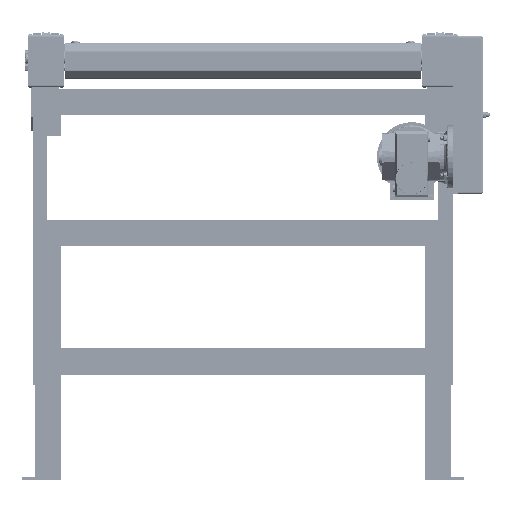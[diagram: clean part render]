
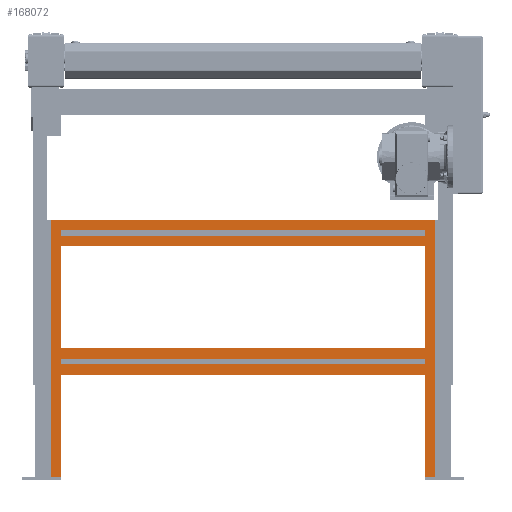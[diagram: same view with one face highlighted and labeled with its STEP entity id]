
A CAD part, front view. The second image highlights one B-rep face of the part: STEP entity #168072.
In plain terms, the highlighted planar face has unit normal (0, -1, 0).
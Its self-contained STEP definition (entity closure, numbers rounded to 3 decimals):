
#5997=FACE_BOUND('',#31920,.T.);
#5998=FACE_BOUND('',#31921,.T.);
#5999=FACE_BOUND('',#31922,.T.);
#21979=FACE_OUTER_BOUND('',#31919,.T.);
#31919=EDGE_LOOP('',(#113441,#113442,#113443,#113444,#113445,#113446,#113447,
#113448));
#31920=EDGE_LOOP('',(#113449,#113450,#113451,#113452));
#31921=EDGE_LOOP('',(#113453,#113454,#113455,#113456));
#31922=EDGE_LOOP('',(#113457,#113458,#113459,#113460));
#47672=LINE('',#255360,#58931);
#47867=LINE('',#255763,#59126);
#47869=LINE('',#255769,#59128);
#47901=LINE('',#255836,#59160);
#47909=LINE('',#255853,#59168);
#47931=LINE('',#255897,#59190);
#48025=LINE('',#256080,#59284);
#48208=LINE('',#256440,#59467);
#48212=LINE('',#256447,#59471);
#48224=LINE('',#256471,#59483);
#48227=LINE('',#256477,#59486);
#48251=LINE('',#256524,#59510);
#48254=LINE('',#256530,#59513);
#48261=LINE('',#256540,#59520);
#48295=LINE('',#256608,#59554);
#48307=LINE('',#256632,#59566);
#48309=LINE('',#256635,#59568);
#48329=LINE('',#256673,#59588);
#48360=LINE('',#256731,#59619);
#48361=LINE('',#256732,#59620);
#58931=VECTOR('',#202830,19.95);
#59126=VECTOR('',#203139,194.5);
#59128=VECTOR('',#203143,194.5);
#59160=VECTOR('',#203189,10.1);
#59168=VECTOR('',#203199,10.1);
#59190=VECTOR('',#203233,489.);
#59284=VECTOR('',#203391,19.95);
#59467=VECTOR('',#203748,691.);
#59471=VECTOR('',#203754,691.);
#59483=VECTOR('',#203778,691.);
#59486=VECTOR('',#203783,691.);
#59510=VECTOR('',#203829,194.5);
#59513=VECTOR('',#203838,194.5);
#59520=VECTOR('',#203847,10.1);
#59554=VECTOR('',#203909,691.);
#59566=VECTOR('',#203933,691.);
#59568=VECTOR('',#203937,691.);
#59588=VECTOR('',#203981,10.1);
#59619=VECTOR('',#204032,730.9);
#59620=VECTOR('',#204033,489.);
#69533=VERTEX_POINT('',#255357);
#69534=VERTEX_POINT('',#255359);
#69674=VERTEX_POINT('',#255740);
#69685=VERTEX_POINT('',#255761);
#69687=VERTEX_POINT('',#255766);
#69688=VERTEX_POINT('',#255768);
#69715=VERTEX_POINT('',#255833);
#69716=VERTEX_POINT('',#255835);
#69722=VERTEX_POINT('',#255849);
#69724=VERTEX_POINT('',#255852);
#69738=VERTEX_POINT('',#255893);
#69740=VERTEX_POINT('',#255896);
#69886=VERTEX_POINT('',#256437);
#69889=VERTEX_POINT('',#256444);
#69895=VERTEX_POINT('',#256469);
#69897=VERTEX_POINT('',#256474);
#69909=VERTEX_POINT('',#256522);
#69931=VERTEX_POINT('',#256605);
#69937=VERTEX_POINT('',#256630);
#69960=VERTEX_POINT('',#256730);
#86486=EDGE_CURVE('',#69533,#69534,#47672,.T.);
#86691=EDGE_CURVE('',#69685,#69674,#47867,.T.);
#86693=EDGE_CURVE('',#69687,#69688,#47869,.T.);
#86725=EDGE_CURVE('',#69715,#69716,#47901,.T.);
#86733=EDGE_CURVE('',#69722,#69724,#47909,.T.);
#86755=EDGE_CURVE('',#69740,#69738,#47931,.T.);
#86849=EDGE_CURVE('',#69685,#69740,#48025,.T.);
#87034=EDGE_CURVE('',#69886,#69687,#48208,.T.);
#87038=EDGE_CURVE('',#69716,#69889,#48212,.T.);
#87050=EDGE_CURVE('',#69715,#69895,#48224,.T.);
#87053=EDGE_CURVE('',#69674,#69897,#48227,.T.);
#87077=EDGE_CURVE('',#69886,#69909,#48251,.T.);
#87080=EDGE_CURVE('',#69533,#69897,#48254,.T.);
#87087=EDGE_CURVE('',#69895,#69889,#48261,.T.);
#87121=EDGE_CURVE('',#69724,#69931,#48295,.T.);
#87133=EDGE_CURVE('',#69722,#69937,#48307,.T.);
#87135=EDGE_CURVE('',#69688,#69909,#48309,.T.);
#87155=EDGE_CURVE('',#69937,#69931,#48329,.T.);
#87186=EDGE_CURVE('',#69960,#69738,#48360,.T.);
#87187=EDGE_CURVE('',#69534,#69960,#48361,.T.);
#113441=ORIENTED_EDGE('',*,*,#87053,.F.);
#113442=ORIENTED_EDGE('',*,*,#86691,.F.);
#113443=ORIENTED_EDGE('',*,*,#86849,.T.);
#113444=ORIENTED_EDGE('',*,*,#86755,.T.);
#113445=ORIENTED_EDGE('',*,*,#87186,.F.);
#113446=ORIENTED_EDGE('',*,*,#87187,.F.);
#113447=ORIENTED_EDGE('',*,*,#86486,.F.);
#113448=ORIENTED_EDGE('',*,*,#87080,.T.);
#113449=ORIENTED_EDGE('',*,*,#87034,.F.);
#113450=ORIENTED_EDGE('',*,*,#87077,.T.);
#113451=ORIENTED_EDGE('',*,*,#87135,.F.);
#113452=ORIENTED_EDGE('',*,*,#86693,.F.);
#113453=ORIENTED_EDGE('',*,*,#87038,.F.);
#113454=ORIENTED_EDGE('',*,*,#86725,.F.);
#113455=ORIENTED_EDGE('',*,*,#87050,.T.);
#113456=ORIENTED_EDGE('',*,*,#87087,.T.);
#113457=ORIENTED_EDGE('',*,*,#87121,.F.);
#113458=ORIENTED_EDGE('',*,*,#86733,.F.);
#113459=ORIENTED_EDGE('',*,*,#87133,.T.);
#113460=ORIENTED_EDGE('',*,*,#87155,.T.);
#152966=PLANE('',#178295);
#168072=ADVANCED_FACE('',(#21979,#5997,#5998,#5999),#152966,.T.);
#178295=AXIS2_PLACEMENT_3D('',#256729,#204030,#204031);
#202830=DIRECTION('',(-1.,0.,0.));
#203139=DIRECTION('',(0.,0.,1.));
#203143=DIRECTION('',(0.,0.,1.));
#203189=DIRECTION('',(0.,0.,1.));
#203199=DIRECTION('',(0.,0.,1.));
#203233=DIRECTION('',(0.,0.,1.));
#203391=DIRECTION('',(1.,0.,0.));
#203748=DIRECTION('',(1.,0.,0.));
#203754=DIRECTION('',(-1.,0.,0.));
#203778=DIRECTION('',(-1.,0.,0.));
#203783=DIRECTION('',(-1.,0.,0.));
#203829=DIRECTION('',(0.,0.,1.));
#203838=DIRECTION('',(0.,0.,1.));
#203847=DIRECTION('',(0.,0.,1.));
#203909=DIRECTION('',(-1.,0.,0.));
#203933=DIRECTION('',(-1.,0.,0.));
#203937=DIRECTION('',(-1.,0.,0.));
#203981=DIRECTION('',(0.,0.,1.));
#204030=DIRECTION('center_axis',(0.,-1.,0.));
#204031=DIRECTION('ref_axis',(0.,0.,1.));
#204032=DIRECTION('',(1.,0.,0.));
#204033=DIRECTION('',(0.,0.,1.));
#255357=CARTESIAN_POINT('',(-345.5,-825.,6.));
#255359=CARTESIAN_POINT('',(-365.45,-825.,6.));
#255360=CARTESIAN_POINT('',(-364.25,-825.,6.));
#255740=CARTESIAN_POINT('',(345.5,-825.,200.5));
#255761=CARTESIAN_POINT('',(345.5,-825.,6.));
#255763=CARTESIAN_POINT('',(345.5,-825.,6.));
#255766=CARTESIAN_POINT('',(345.5,-825.,250.5));
#255768=CARTESIAN_POINT('',(345.5,-825.,445.));
#255769=CARTESIAN_POINT('',(345.5,-825.,6.));
#255833=CARTESIAN_POINT('',(345.5,-825.,220.45));
#255835=CARTESIAN_POINT('',(345.5,-825.,230.55));
#255836=CARTESIAN_POINT('',(345.5,-825.,6.));
#255849=CARTESIAN_POINT('',(345.5,-825.,464.95));
#255852=CARTESIAN_POINT('',(345.5,-825.,475.05));
#255853=CARTESIAN_POINT('',(345.5,-825.,6.));
#255893=CARTESIAN_POINT('',(365.45,-825.,495.));
#255896=CARTESIAN_POINT('',(365.45,-825.,6.));
#255897=CARTESIAN_POINT('',(365.45,-825.,6.));
#256080=CARTESIAN_POINT('',(364.25,-825.,6.));
#256437=CARTESIAN_POINT('',(-345.5,-825.,250.5));
#256440=CARTESIAN_POINT('',(0.,-825.,250.5));
#256444=CARTESIAN_POINT('',(-345.5,-825.,230.55));
#256447=CARTESIAN_POINT('',(0.,-825.,230.55));
#256469=CARTESIAN_POINT('',(-345.5,-825.,220.45));
#256471=CARTESIAN_POINT('',(0.,-825.,220.45));
#256474=CARTESIAN_POINT('',(-345.5,-825.,200.5));
#256477=CARTESIAN_POINT('',(0.,-825.,200.5));
#256522=CARTESIAN_POINT('',(-345.5,-825.,445.));
#256524=CARTESIAN_POINT('',(-345.5,-825.,6.));
#256530=CARTESIAN_POINT('',(-345.5,-825.,6.));
#256540=CARTESIAN_POINT('',(-345.5,-825.,6.));
#256605=CARTESIAN_POINT('',(-345.5,-825.,475.05));
#256608=CARTESIAN_POINT('',(0.,-825.,475.05));
#256630=CARTESIAN_POINT('',(-345.5,-825.,464.95));
#256632=CARTESIAN_POINT('',(0.,-825.,464.95));
#256635=CARTESIAN_POINT('',(0.,-825.,445.));
#256673=CARTESIAN_POINT('',(-345.5,-825.,6.));
#256729=CARTESIAN_POINT('Origin',(-345.5,-825.,6.));
#256730=CARTESIAN_POINT('',(-365.45,-825.,495.));
#256731=CARTESIAN_POINT('',(365.45,-825.,495.));
#256732=CARTESIAN_POINT('',(-365.45,-825.,6.));
